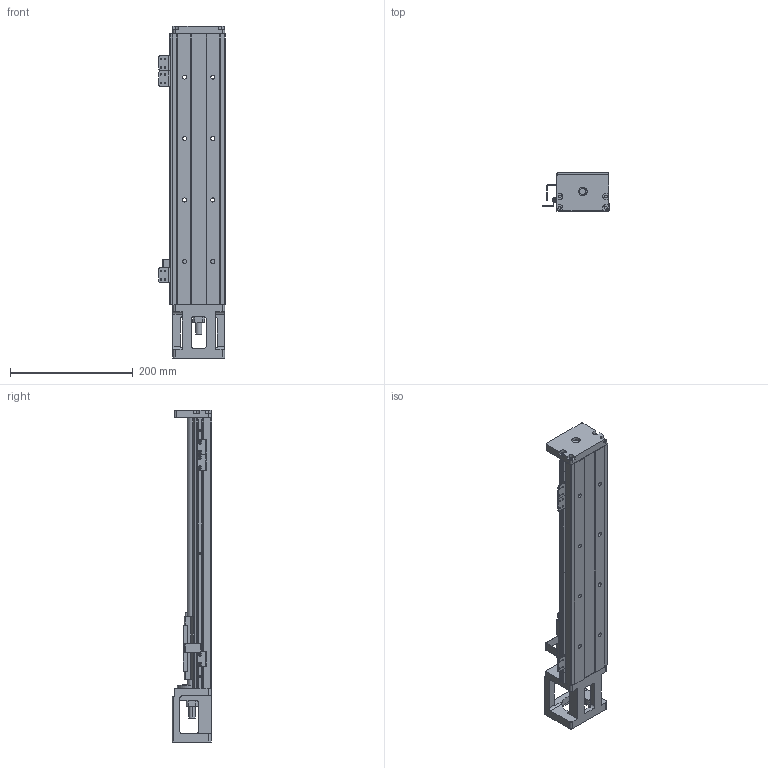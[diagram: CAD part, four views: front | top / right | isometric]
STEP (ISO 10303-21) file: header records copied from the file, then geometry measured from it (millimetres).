
FILE_DESCRIPTION (( 'STEP AP203' ), '1' );
FILE_NAME ('KH86D10C-440A1-F0S0.STEP', '2024-01-08T02:15:49', ( '' ), ( '' ), 'SwSTEP 2.0', 'SolidWorks 2016', '' );
FILE_SCHEMA (( 'CONFIG_CONTROL_DESIGN' ));
Length unit declared in the file: millimetre
Products named in the file (32): 86賑輸; 囀鞠褒す埴芛蹟隊M3℅5; FS-02-674; KH86-綴釱_KK86-05-01; 鞠褒蹟譫M3; KK86-01-01-440; KK86-04-07G; ヶ盓釱; KH86-08-SX674; KH86-A1; KH86-08-(SX674); KH86D10C-440A1-F0S0
Assembly tree (19 placements, depth 3):
  86賑輸
  FS-02-674
  囀鞠褒す埴芛蹟隊M3℅5
  FS-02-674
  鞠褒蹟譫M3
Bounding box: 108 x 64 x 540 mm (x, y, z)
Volume: 1105025.6 mm3; surface area: 255463.7 mm2
Topology: 16 solids, 35 shells, 899 faces, 2298 edges, 1449 vertices
Faces by surface type: plane 332, cylinder 323, cone 226, bspline 18
Entity records: 20851 total; most frequent: CARTESIAN_POINT 3743, DIRECTION 3034, ORIENTED_EDGE 2899, EDGE_CURVE 1452, AXIS2_PLACEMENT_3D 1105, VERTEX_POINT 953, VECTOR 824, LINE 824
